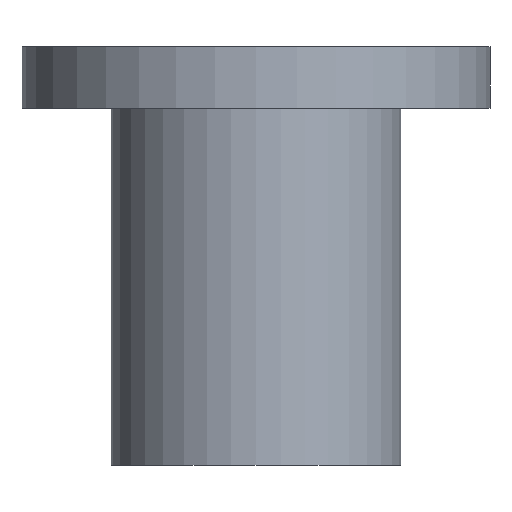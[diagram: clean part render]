
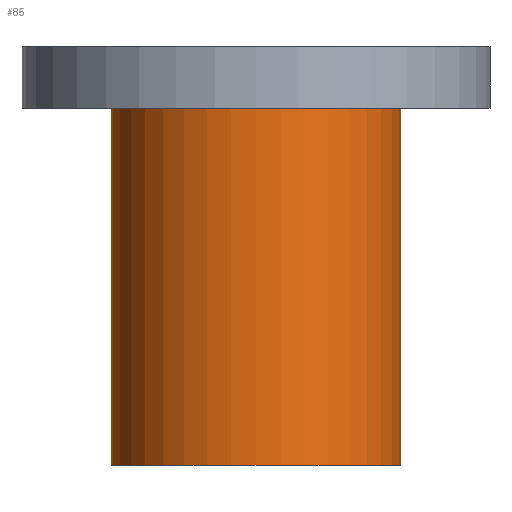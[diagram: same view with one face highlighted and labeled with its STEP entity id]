
A CAD part, front view. The second image highlights one B-rep face of the part: STEP entity #85.
In plain terms, the highlighted cylindrical face has radius 23.5 mm (diameter 47 mm), a partial arc.
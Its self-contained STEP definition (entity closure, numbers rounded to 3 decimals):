
#44=CARTESIAN_POINT('',(0.0,0.0,0.0));
#45=DIRECTION('',(0.0,0.0,1.0));
#46=DIRECTION('',(-1.0,0.0,0.0));
#47=AXIS2_PLACEMENT_3D('',#44,#45,#46);
#48=CYLINDRICAL_SURFACE('',#47,23.5);
#49=CARTESIAN_POINT('',(-23.5,0.,-34.0));
#50=VERTEX_POINT('',#49);
#51=CARTESIAN_POINT('',(-23.5,0.,24.));
#52=VERTEX_POINT('',#51);
#53=CARTESIAN_POINT('',(-23.5,0.,-34.0));
#54=DIRECTION('',(0.0,0.0,1.0));
#55=VECTOR('',#54,58.0);
#56=LINE('',#53,#55);
#57=EDGE_CURVE('',#50,#52,#56,.T.);
#58=ORIENTED_EDGE('',*,*,#57,.F.);
#59=CARTESIAN_POINT('',(23.5,0.,-34.0));
#60=VERTEX_POINT('',#59);
#61=CARTESIAN_POINT('',(0.0,0.0,-34.0));
#62=DIRECTION('',(0.0,0.0,1.0));
#63=DIRECTION('',(-1.0,0.0,0.0));
#64=AXIS2_PLACEMENT_3D('',#61,#62,#63);
#65=CIRCLE('',#64,23.5);
#66=EDGE_CURVE('',#50,#60,#65,.T.);
#67=ORIENTED_EDGE('',*,*,#66,.T.);
#68=CARTESIAN_POINT('',(23.5,0.,24.));
#69=VERTEX_POINT('',#68);
#70=CARTESIAN_POINT('',(23.5,0.,24.));
#71=DIRECTION('',(0.0,0.0,-1.0));
#72=VECTOR('',#71,58.0);
#73=LINE('',#70,#72);
#74=EDGE_CURVE('',#69,#60,#73,.T.);
#75=ORIENTED_EDGE('',*,*,#74,.F.);
#76=CARTESIAN_POINT('',(0.0,0.0,24.));
#77=DIRECTION('',(0.0,0.0,-1.0));
#78=DIRECTION('',(-1.0,0.0,0.0));
#79=AXIS2_PLACEMENT_3D('',#76,#77,#78);
#80=CIRCLE('',#79,23.5);
#81=EDGE_CURVE('',#69,#52,#80,.T.);
#82=ORIENTED_EDGE('',*,*,#81,.T.);
#83=EDGE_LOOP('',(#58,#67,#75,#82));
#84=FACE_OUTER_BOUND('',#83,.T.);
#85=ADVANCED_FACE('',(#84),#48,.T.);
